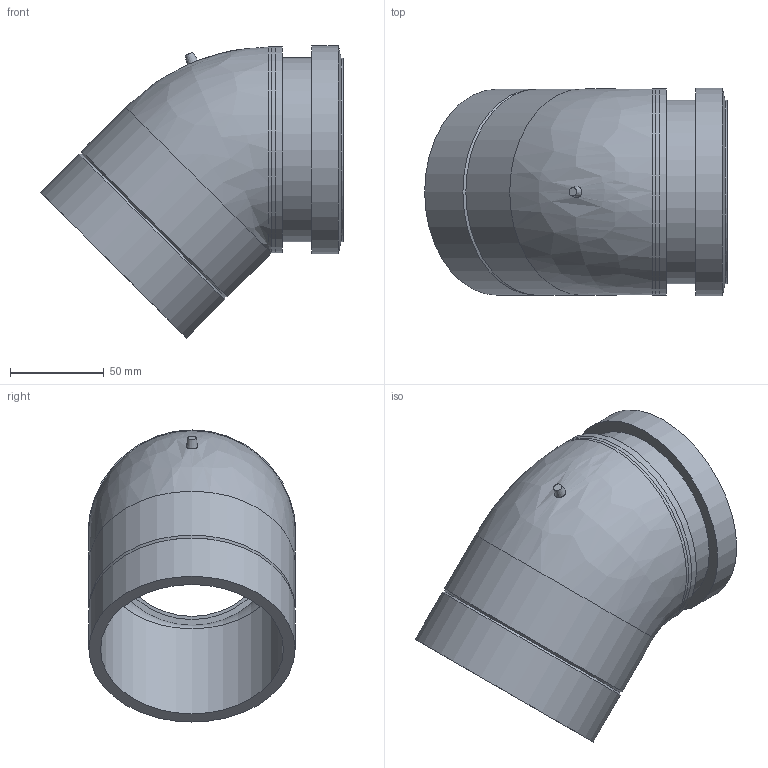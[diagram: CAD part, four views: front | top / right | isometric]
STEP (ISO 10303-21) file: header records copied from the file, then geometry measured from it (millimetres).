
FILE_DESCRIPTION(/* description */ (''),/* implementation_level */ '2;1');
FILE_NAME(/* name */ 'Z:\Geberit\Export\NewStep\367945.stp',/* time_stamp */ '2014-04-02T07:59:39+02:00',/* author */ ('nelson'),/* organization */ (''),/* preprocessor_version */ 'ST-DEVELOPER v15.2',/* originating_system */ 'Autodesk Inventor 2014',/* authorisation */ '');
FILE_SCHEMA (('AUTOMOTIVE_DESIGN { 1 0 10303 214 3 1 1 }'));
Length unit declared in the file: millimetre
Products named in the file (3): 367941; 863462; 367945
Bounding box: 161.59 x 111 x 155.91 mm (x, y, z)
Volume: 281381.5 mm3; surface area: 115328.1 mm2
Topology: 2 solids, 2 shells, 34 faces, 60 edges, 35 vertices
Faces by surface type: cylinder 15, plane 11, cone 6, bspline 1, torus 1
Full cylindrical faces by diameter (mm): 88 x1, 91.45 x2, 92.2 x1, 97.6 x2, 98 x1, 98.2 x1, 100.94 x1, 104.7 x1, 110 x4, 111 x1
Entity records: 896 total; most frequent: CARTESIAN_POINT 227, DIRECTION 142, AXIS2_PLACEMENT_3D 71, ORIENTED_EDGE 68, EDGE_LOOP 67, FACE_BOUND 40, STYLED_ITEM 36, EDGE_CURVE 34
